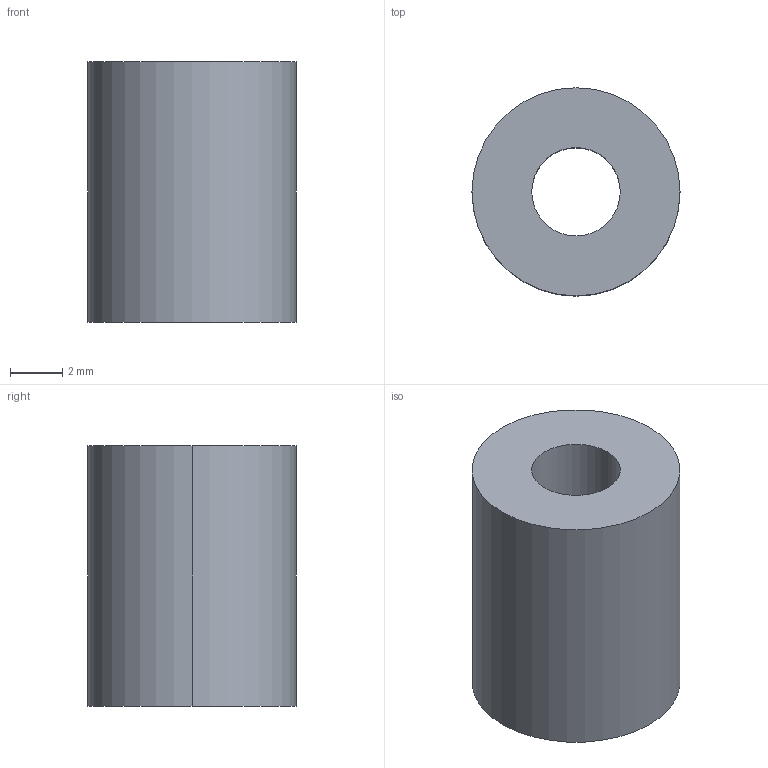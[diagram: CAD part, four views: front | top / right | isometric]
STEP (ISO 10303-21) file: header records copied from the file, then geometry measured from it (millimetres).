
FILE_DESCRIPTION (( 'STEP AP203' ), '1' );
FILE_NAME ('05_pcb_standoff_10.step', '2026-10-06T17:14:29', ( '' ), ( '' ), 'SwSTEP 2.0', 'SolidWorks 2025', '' );
FILE_SCHEMA (( 'CONFIG_CONTROL_DESIGN' ));
Length unit declared in the file: millimetre
Products named in the file (1): 05_pcb_standoff_10
Bounding box: 8 x 8 x 10 mm (x, y, z)
Volume: 411.9 mm3; surface area: 440.5 mm2
Topology: 1 solids, 1 shells, 6 faces, 12 edges, 8 vertices
Faces by surface type: cylinder 4, plane 2
Entity records: 245 total; most frequent: DIRECTION 34, CARTESIAN_POINT 27, ORIENTED_EDGE 24, AXIS2_PLACEMENT_3D 15, EDGE_CURVE 12, EDGE_LOOP 8, VERTEX_POINT 8, PERSON_AND_ORGANIZATION 8
